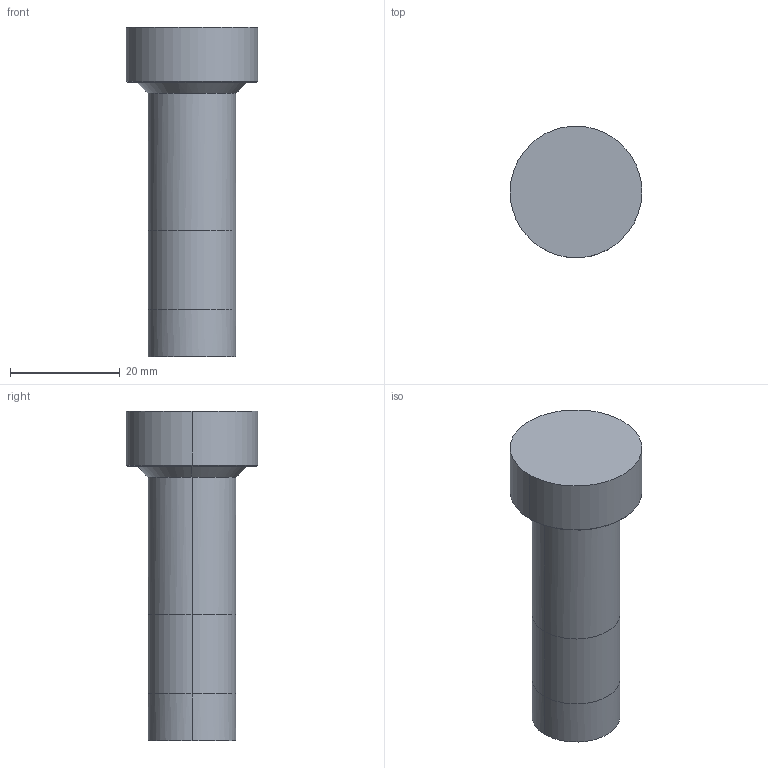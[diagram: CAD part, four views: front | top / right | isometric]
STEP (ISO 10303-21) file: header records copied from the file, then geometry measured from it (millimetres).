
FILE_DESCRIPTION(/* description */ (''),/* implementation_level */ '2;1');
FILE_NAME(/* name */ 'Bolt',/* time_stamp */ '2020-06-25T00:30:45-06:00',/* author */ (''),/* organization */ (''),/* preprocessor_version */ 'ST-DEVELOPER v15',/* originating_system */ '',/* authorisation */ '');
FILE_SCHEMA (('AUTOMOTIVE_DESIGN'));
Length unit declared in the file: millimetre
Products named in the file (1): Document
Bounding box: 24 x 23.98 x 60 mm (x, y, z)
Volume: 14712.7 mm3; surface area: 4113.8 mm2
Topology: 1 solids, 1 shells, 15 faces, 28 edges, 16 vertices
Faces by surface type: bspline 12, plane 3
Entity records: 660 total; most frequent: CARTESIAN_POINT 458, ORIENTED_EDGE 56, EDGE_CURVE 28, EDGE_LOOP 16, VERTEX_POINT 16, ADVANCED_FACE 15, FACE_OUTER_BOUND 15, B_SPLINE_CURVE_WITH_KNOTS 8
